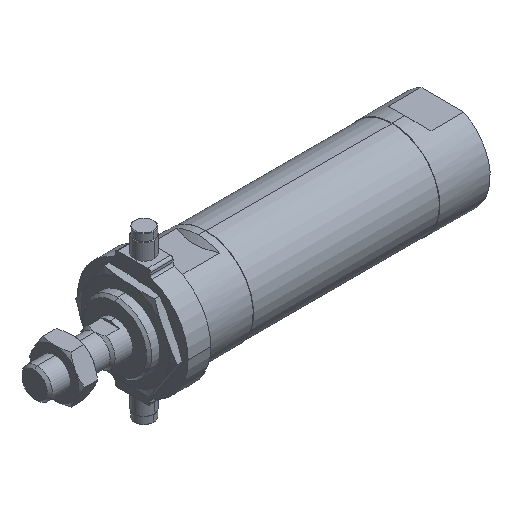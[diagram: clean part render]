
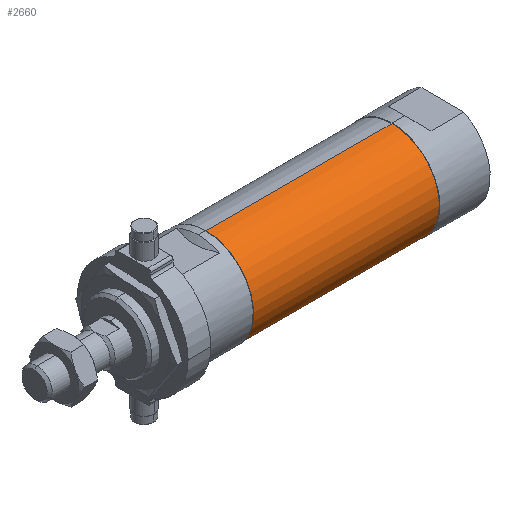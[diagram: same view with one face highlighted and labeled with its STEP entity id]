
A CAD part, isometric view. The second image highlights one B-rep face of the part: STEP entity #2660.
In plain terms, the highlighted cylindrical face has radius 18.8 mm (diameter 37.6 mm), a partial arc.
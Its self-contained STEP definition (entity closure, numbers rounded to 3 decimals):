
#79 = CARTESIAN_POINT ( 'NONE',  ( 142., 0., 0. ) ) ;
#165 = CARTESIAN_POINT ( 'NONE',  ( -1.784, 0., 18.8 ) ) ;
#233 = EDGE_LOOP ( 'NONE', ( #3817, #3459, #4341, #2278 ) ) ;
#307 = DIRECTION ( 'NONE',  ( -1., 0., 0. ) ) ;
#647 = CYLINDRICAL_SURFACE ( 'NONE', #1732, 18.8 ) ;
#666 = CARTESIAN_POINT ( 'NONE',  ( -1.784, 0., -18.8 ) ) ;
#680 = EDGE_CURVE ( 'NONE', #971, #1364, #2473, .T. ) ;
#749 = CIRCLE ( 'NONE', #3303, 18.8 ) ;
#752 = CIRCLE ( 'NONE', #2441, 18.8 ) ;
#766 = CARTESIAN_POINT ( 'NONE',  ( 142., 0., 18.8 ) ) ;
#779 = DIRECTION ( 'NONE',  ( -1., 0., 0. ) ) ;
#971 = VERTEX_POINT ( 'NONE', #766 ) ;
#1041 = VECTOR ( 'NONE', #1750, 1000. ) ;
#1113 = VERTEX_POINT ( 'NONE', #2040 ) ;
#1250 = CARTESIAN_POINT ( 'NONE',  ( -1.784, 0., 0. ) ) ;
#1343 = CARTESIAN_POINT ( 'NONE',  ( 68., 0., 0. ) ) ;
#1364 = VERTEX_POINT ( 'NONE', #4509 ) ;
#1451 = LINE ( 'NONE', #666, #2826 ) ;
#1732 = AXIS2_PLACEMENT_3D ( 'NONE', #1250, #1952, #4406 ) ;
#1750 = DIRECTION ( 'NONE',  ( -1., 0., 0. ) ) ;
#1952 = DIRECTION ( 'NONE',  ( -1., 0., 0. ) ) ;
#2040 = CARTESIAN_POINT ( 'NONE',  ( 68., 0., -18.8 ) ) ;
#2085 = VERTEX_POINT ( 'NONE', #3535 ) ;
#2278 = ORIENTED_EDGE ( 'NONE', *, *, #3382, .F. ) ;
#2441 = AXIS2_PLACEMENT_3D ( 'NONE', #79, #779, #3949 ) ;
#2473 = LINE ( 'NONE', #165, #1041 ) ;
#2483 = EDGE_CURVE ( 'NONE', #2085, #971, #752, .T. ) ;
#2660 = ADVANCED_FACE ( 'NONE', ( #2828 ), #647, .T. ) ;
#2826 = VECTOR ( 'NONE', #307, 1000. ) ;
#2828 = FACE_OUTER_BOUND ( 'NONE', #233, .T. ) ;
#3091 = DIRECTION ( 'NONE',  ( 0., 0., 1. ) ) ;
#3303 = AXIS2_PLACEMENT_3D ( 'NONE', #1343, #4142, #3091 ) ;
#3372 = EDGE_CURVE ( 'NONE', #2085, #1113, #1451, .T. ) ;
#3382 = EDGE_CURVE ( 'NONE', #1113, #1364, #749, .T. ) ;
#3459 = ORIENTED_EDGE ( 'NONE', *, *, #2483, .T. ) ;
#3535 = CARTESIAN_POINT ( 'NONE',  ( 142., 0., -18.8 ) ) ;
#3817 = ORIENTED_EDGE ( 'NONE', *, *, #3372, .F. ) ;
#3949 = DIRECTION ( 'NONE',  ( 0., 0., 1. ) ) ;
#4142 = DIRECTION ( 'NONE',  ( -1., 0., 0. ) ) ;
#4341 = ORIENTED_EDGE ( 'NONE', *, *, #680, .T. ) ;
#4406 = DIRECTION ( 'NONE',  ( 0., 0., 1. ) ) ;
#4509 = CARTESIAN_POINT ( 'NONE',  ( 68., 0., 18.8 ) ) ;
